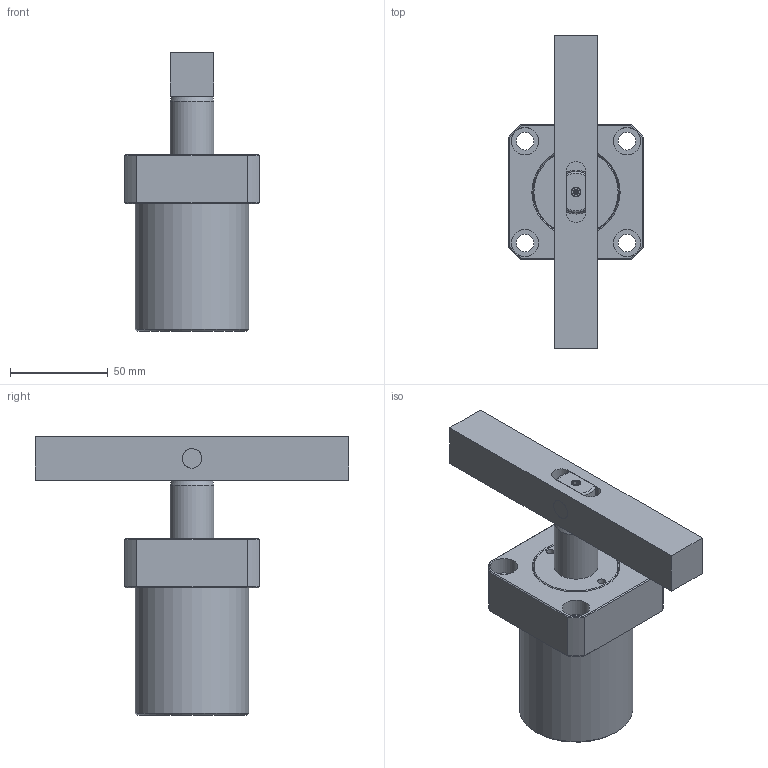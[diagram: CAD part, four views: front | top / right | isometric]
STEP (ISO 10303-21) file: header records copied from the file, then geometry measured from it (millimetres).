
FILE_DESCRIPTION(/* description */ (''),/* implementation_level */ '2;1');
FILE_NAME(/* name */ 'HSC-FA40D-B',/* time_stamp */ '2020-10-22T09:24:48+08:00',/* author */ ('JEFF HUANG'),/* organization */ ('TAIWAN AMAC CLAMP INDUSTRIAL CO., LTD.'),/* preprocessor_version */ 'ST-DEVELOPER v16.7',/* originating_system */ 'DEX',/* authorisation */ $);
FILE_SCHEMA (('AUTOMOTIVE_DESIGN {1 0 10303 214 3 1 1}'));
Length unit declared in the file: millimetre
Products named in the file (5): HSC-FA40D-B; HSC-FA40D-CYLINDER; HSC-4002-D-AXLE CENTRE; HSC-4002-D-FIXED PIN; HSC-40D-B
Assembly tree (4 placements, depth 2):
  HSC-FA40D-B
    HSC-FA40D-CYLINDER
    HSC-4002-D-AXLE CENTRE
    HSC-4002-D-FIXED PIN
    HSC-40D-B
Bounding box: 69 x 160 x 142.2 mm (x, y, z)
Volume: 332268.1 mm3; surface area: 67619.7 mm2
Topology: 4 solids, 4 shells, 114 faces, 239 edges, 148 vertices
Faces by surface type: plane 51, cylinder 29, cone 18, bspline 12, torus 4
Full cylindrical faces by diameter (mm): 4 x2, 9 x4, 10 x4, 12.301 x2, 14 x4, 22.4 x2, 40 x2, 58 x1
Entity records: 3417 total; most frequent: CARTESIAN_POINT 699, DIRECTION 456, ORIENTED_EDGE 382, AXIS2_PLACEMENT_3D 196, EDGE_CURVE 191, EDGE_LOOP 178, FACE_BOUND 178, VERTEX_POINT 133
